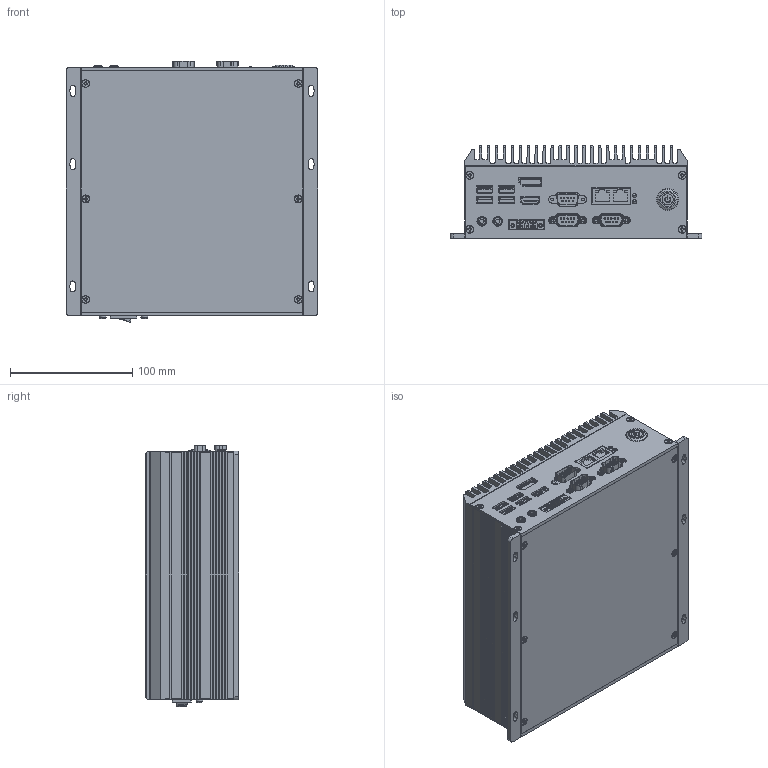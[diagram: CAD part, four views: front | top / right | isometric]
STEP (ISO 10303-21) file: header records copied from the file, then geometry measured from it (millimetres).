
FILE_DESCRIPTION((''),'2;1');
FILE_NAME('3D-MPC-B1500A','2024-09-02T10:14:56',('BCKIM'),(''),'CREO PARAMETRIC BY PTC INC, 2024153','CREO PARAMETRIC BY PTC INC, 2024153','');
FILE_SCHEMA(('CONFIG_CONTROL_DESIGN'));
Products named in the file (1): 3D-MPC-B1500A
Bounding box: 206 x 76.4 x 213.61 mm (x, y, z)
Volume: 2466003.6 mm3; surface area: 333359.8 mm2
Topology: 1 solids, 46 shells, 2764 faces, 7510 edges, 4938 vertices
Faces by surface type: plane 1786, cylinder 783, cone 143, bspline 26, torus 14, sphere 12
Entity records: 93248 total; most frequent: CARTESIAN_POINT 22881, ORIENTED_EDGE 14932, DIRECTION 14157, EDGE_CURVE 7466, VECTOR 5443, LINE 5443, VERTEX_POINT 4938, AXIS2_PLACEMENT_3D 4357
